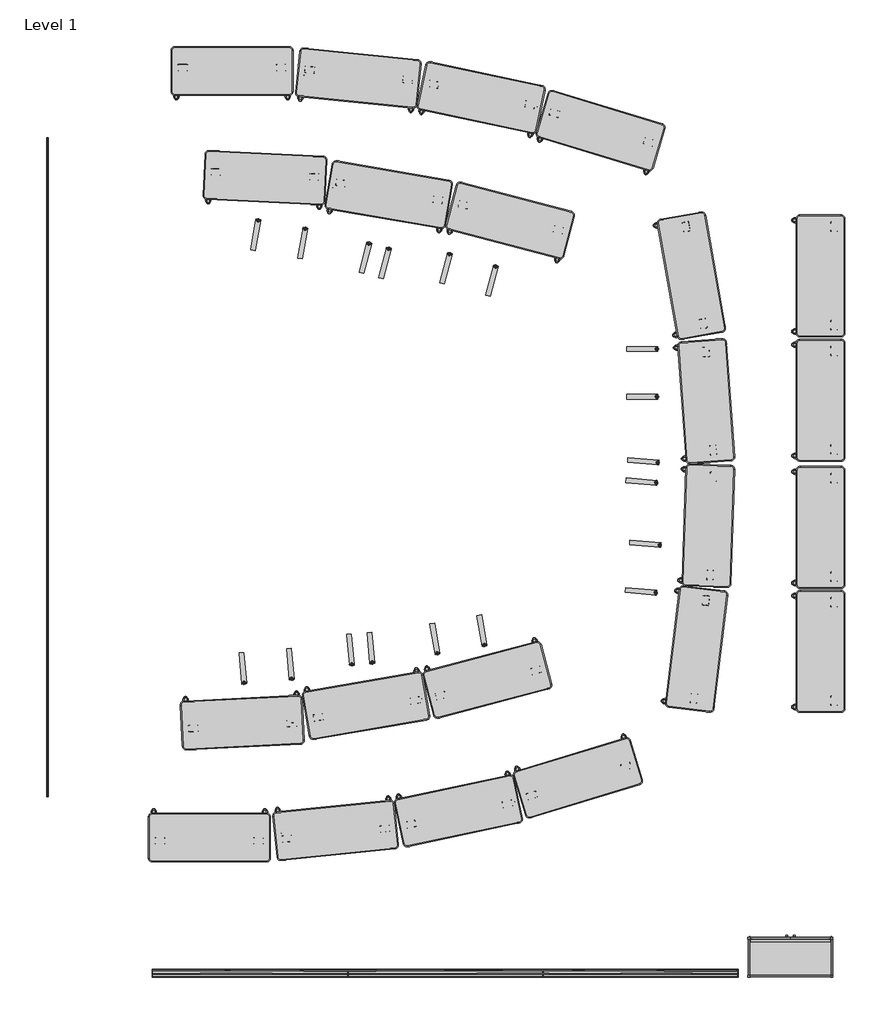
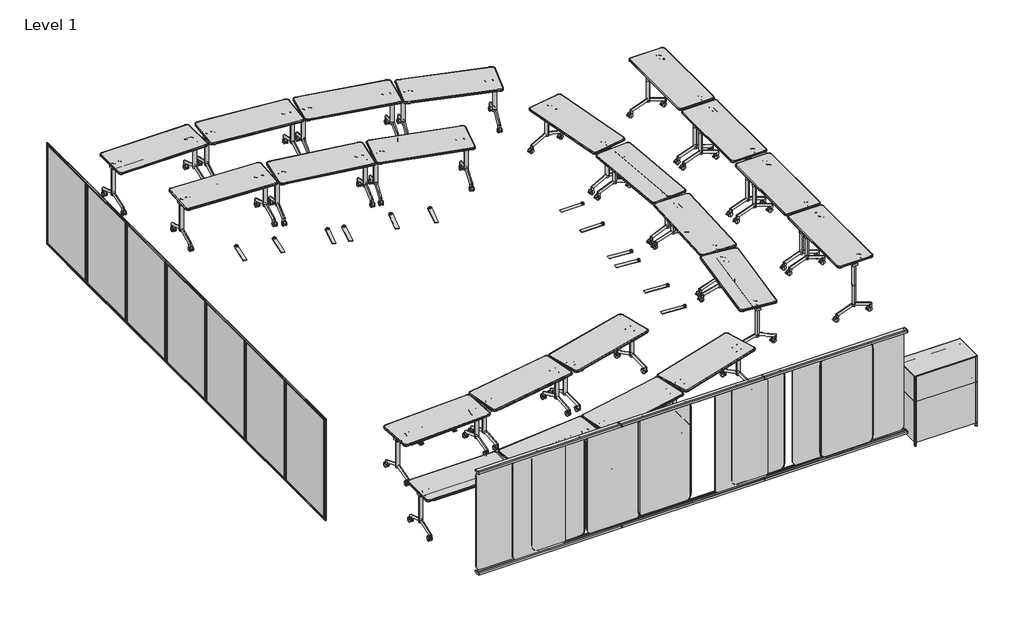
# One storey, incomplete: 52 furniture elements.
"""IFC4 building model written with IfcOpenShell, lengths in millimetres."""

from ifc_helpers import new_model, si_unit, origin, place, context, project, spatial, transform, mapped, element, save
from components import furniture_818722c3, furniture_cddd74b0, furniture_4304682f, furniture_49b3452a, furniture_2a3ed800, furniture_b1fba1ff, double_ea325dfb, polyvision_accessory_board_flow_vertical_5f54c6b5, polyvision_accessory_board_flow_vertical_01536e87, polyvision_accessory_board_flow_vertical_d371d4c1, single_6dff62dc, steelcase_am_accessory_board_flex_markerboard_71h_e8a6860e, steelcase_am_accessory_board_flex_wallrail_71h_4a79e921, steelcase_am_spacedivision_screen_flex_freestanding_69d37450, upper_shelves_lower_shelves_e5fb00db, upper_shelves_lower_shelves_66190618, upper_shelves_lower_shelves_562fbb97

model = new_model("IFC4")

# Units and contexts
model_context = context("Model", 3, world=origin())
ifc_project = project(units=[si_unit("LENGTHUNIT", "METRE", prefix="MILLI")], contexts=[model_context])

# Site, building, storey
site = spatial("IfcSite", under=ifc_project)
building = spatial("IfcBuilding", under=site)
storey = spatial("IfcBuildingStorey", under=building, Name="Level 1", Elevation=0.0)

# Furniture
placement = place(None, origin())
furniture_shape = furniture_818722c3(model_context)
furniture_2_shape = furniture_cddd74b0(model_context)
element("IfcFurniture", 1, ObjectType="SmithSystem_AM_Table_Education_Elemental_NestAndFold_24D : 24D x 60W", at=placement, inside=storey, context=model_context, shape_type="MappedRepresentation", body=[
    mapped(furniture_shape, transform((-70007.1827274, -115179.6310639, 0.0), x_axis=(0.9987639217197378, 0.049705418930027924, 0.0), y_axis=(-0.049705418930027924, 0.9987639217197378, 0.0), z_axis=(0.0, 0.0, 1.0))),
    mapped(furniture_2_shape, transform((-70007.1827274, -115179.6310639, 0.0), x_axis=(0.9987639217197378, 0.049705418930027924, 0.0), y_axis=(-0.049705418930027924, 0.9987639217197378, 0.0), z_axis=(0.0, 0.0, 1.0))),
])
element("IfcFurniture", 2, ObjectType="SmithSystem_AM_Table_Education_Elemental_NestAndFold_24D : 24D x 60W", at=placement, inside=storey, context=model_context, shape_type="MappedRepresentation", body=[
    mapped(furniture_shape, transform((-68487.0894304, -115063.2321381, 0.0), x_axis=(0.9855113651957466, 0.16960940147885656, 0.0), y_axis=(-0.16960940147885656, 0.9855113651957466, 0.0), z_axis=(0.0, 0.0, 1.0))),
    mapped(furniture_2_shape, transform((-68487.0894304, -115063.2321381, 0.0), x_axis=(0.9855113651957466, 0.16960940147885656, 0.0), y_axis=(-0.16960940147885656, 0.9855113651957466, 0.0), z_axis=(0.0, 0.0, 1.0))),
])
element("IfcFurniture", 3, ObjectType="SmithSystem_AM_Table_Education_Elemental_NestAndFold_24D : 24D x 60W", at=placement, inside=storey, context=model_context, shape_type="MappedRepresentation", body=[
    mapped(furniture_shape, transform((-66983.6869748, -114811.5696392, 0.0), x_axis=(0.9669787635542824, 0.25485696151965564, 0.0), y_axis=(-0.25485696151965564, 0.9669787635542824, 0.0), z_axis=(0.0, 0.0, 1.0))),
    mapped(furniture_2_shape, transform((-66983.6869748, -114811.5696392, 0.0), x_axis=(0.9669787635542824, 0.25485696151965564, 0.0), y_axis=(-0.25485696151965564, 0.9669787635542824, 0.0), z_axis=(0.0, 0.0, 1.0))),
])
element("IfcFurniture", 4, ObjectType="SmithSystem_AM_Table_Education_Elemental_NestAndFold_24D : 24D x 60W", at=placement, inside=storey, context=model_context, shape_type="MappedRepresentation", body=[
    mapped(furniture_shape, transform((-70404.7643474, -116577.3564631, 0.0), x_axis=(1.0, 0.0, 0.0), y_axis=(0.0, 1.0, 0.0), z_axis=(0.0, 0.0, 1.0))),
    mapped(furniture_2_shape, transform((-70404.7643474, -116577.3564631, 0.0), x_axis=(1.0, 0.0, 0.0), y_axis=(0.0, 1.0, 0.0), z_axis=(0.0, 0.0, 1.0))),
])
element("IfcFurniture", 5, ObjectType="SmithSystem_AM_Table_Education_Elemental_NestAndFold_24D : 24D x 60W", at=placement, inside=storey, context=model_context, shape_type="MappedRepresentation", body=[
    mapped(furniture_shape, transform((-68854.0558064, -116566.6361646, 0.0), x_axis=(0.9948091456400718, 0.10175835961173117, 0.0), y_axis=(-0.10175835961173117, 0.9948091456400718, 0.0), z_axis=(0.0, 0.0, 1.0))),
    mapped(furniture_2_shape, transform((-68854.0558064, -116566.6361646, 0.0), x_axis=(0.9948091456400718, 0.10175835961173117, 0.0), y_axis=(-0.10175835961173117, 0.9948091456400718, 0.0), z_axis=(0.0, 0.0, 1.0))),
])
element("IfcFurniture", 6, ObjectType="SmithSystem_AM_Table_Education_Elemental_NestAndFold_24D : 24D x 60W", at=placement, inside=storey, context=model_context, shape_type="MappedRepresentation", body=[
    mapped(furniture_shape, transform((-67338.3843084, -116407.4734973, 0.0), x_axis=(0.9785094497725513, 0.20620198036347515, 0.0), y_axis=(-0.20620198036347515, 0.9785094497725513, 0.0), z_axis=(0.0, 0.0, 1.0))),
    mapped(furniture_2_shape, transform((-67338.3843084, -116407.4734973, 0.0), x_axis=(0.9785094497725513, 0.20620198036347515, 0.0), y_axis=(-0.20620198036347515, 0.9785094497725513, 0.0), z_axis=(0.0, 0.0, 1.0))),
])
element("IfcFurniture", 7, ObjectType="SmithSystem_AM_Table_Education_Elemental_NestAndFold_24D : 24D x 60W", at=placement, inside=storey, context=model_context, shape_type="MappedRepresentation", body=[
    mapped(furniture_shape, transform((-65855.4237394, -116065.7459511, 0.0), x_axis=(0.9568142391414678, 0.2907000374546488, 0.0), y_axis=(-0.2907000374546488, 0.9568142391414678, 0.0), z_axis=(0.0, 0.0, 1.0))),
    mapped(furniture_2_shape, transform((-65855.4237394, -116065.7459511, 0.0), x_axis=(0.9568142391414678, 0.2907000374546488, 0.0), y_axis=(-0.2907000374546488, 0.9568142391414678, 0.0), z_axis=(0.0, 0.0, 1.0))),
])
furniture_3_shape = furniture_4304682f(model_context)
furniture_4_shape = furniture_49b3452a(model_context)
element("IfcFurniture", 8, ObjectType="SmithSystem_AM_Table_Education_Elemental_NestAndFold_24D : 24D x 60W", at=placement, inside=storey, context=model_context, shape_type="MappedRepresentation", body=[
    mapped(furniture_3_shape, transform((-69724.0279915, -108905.5000288, 0.0), x_axis=(0.9987639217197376, -0.04970541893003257, 0.0), y_axis=(0.04970541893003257, 0.9987639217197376, 0.0), z_axis=(0.0, 0.0, 1.0))),
    mapped(furniture_4_shape, transform((-69724.0279915, -108905.5000288, 0.0), x_axis=(0.9987639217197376, -0.04970541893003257, 0.0), y_axis=(0.04970541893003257, 0.9987639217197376, 0.0), z_axis=(0.0, 0.0, 1.0))),
])
element("IfcFurniture", 9, ObjectType="SmithSystem_AM_Table_Education_Elemental_NestAndFold_24D : 24D x 60W", at=placement, inside=storey, context=model_context, shape_type="MappedRepresentation", body=[
    mapped(furniture_3_shape, transform((-68203.9346946, -109021.8989546, 0.0), x_axis=(0.9855113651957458, -0.16960940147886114, 0.0), y_axis=(0.16960940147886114, 0.9855113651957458, 0.0), z_axis=(0.0, 0.0, 1.0))),
    mapped(furniture_4_shape, transform((-68203.9346946, -109021.8989546, 0.0), x_axis=(0.9855113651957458, -0.16960940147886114, 0.0), y_axis=(0.16960940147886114, 0.9855113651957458, 0.0), z_axis=(0.0, 0.0, 1.0))),
])
element("IfcFurniture", 10, ObjectType="SmithSystem_AM_Table_Education_Elemental_NestAndFold_24D : 24D x 60W", at=placement, inside=storey, context=model_context, shape_type="MappedRepresentation", body=[
    mapped(furniture_3_shape, transform((-66700.5322389, -109273.5614535, 0.0), x_axis=(0.9669787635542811, -0.25485696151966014, 0.0), y_axis=(0.25485696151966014, 0.9669787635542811, 0.0), z_axis=(0.0, 0.0, 1.0))),
    mapped(furniture_4_shape, transform((-66700.5322389, -109273.5614535, 0.0), x_axis=(0.9669787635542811, -0.25485696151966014, 0.0), y_axis=(0.25485696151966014, 0.9669787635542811, 0.0), z_axis=(0.0, 0.0, 1.0))),
])
element("IfcFurniture", 11, ObjectType="SmithSystem_AM_Table_Education_Elemental_NestAndFold_24D : 24D x 60W", at=placement, inside=storey, context=model_context, shape_type="MappedRepresentation", body=[
    mapped(furniture_3_shape, transform((-70121.6096116, -107609.3746296, 0.0), x_axis=(1.0, 0.0, 0.0), y_axis=(0.0, 1.0, 0.0), z_axis=(0.0, 0.0, 1.0))),
    mapped(furniture_4_shape, transform((-70121.6096116, -107609.3746296, 0.0), x_axis=(1.0, 0.0, 0.0), y_axis=(0.0, 1.0, 0.0), z_axis=(0.0, 0.0, 1.0))),
])
element("IfcFurniture", 12, ObjectType="SmithSystem_AM_Table_Education_Elemental_NestAndFold_24D : 24D x 60W", at=placement, inside=storey, context=model_context, shape_type="MappedRepresentation", body=[
    mapped(furniture_3_shape, transform((-68570.9010706, -107620.0949281, 0.0), x_axis=(0.9948091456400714, -0.10175835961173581, 0.0), y_axis=(0.10175835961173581, 0.9948091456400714, 0.0), z_axis=(0.0, 0.0, 1.0))),
    mapped(furniture_4_shape, transform((-68570.9010706, -107620.0949281, 0.0), x_axis=(0.9948091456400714, -0.10175835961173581, 0.0), y_axis=(0.10175835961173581, 0.9948091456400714, 0.0), z_axis=(0.0, 0.0, 1.0))),
])
element("IfcFurniture", 13, ObjectType="SmithSystem_AM_Table_Education_Elemental_NestAndFold_24D : 24D x 60W", at=placement, inside=storey, context=model_context, shape_type="MappedRepresentation", body=[
    mapped(furniture_3_shape, transform((-67055.2295725, -107779.2575954, 0.0), x_axis=(0.9785094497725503, -0.2062019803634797, 0.0), y_axis=(0.2062019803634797, 0.9785094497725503, 0.0), z_axis=(0.0, 0.0, 1.0))),
    mapped(furniture_4_shape, transform((-67055.2295725, -107779.2575954, 0.0), x_axis=(0.9785094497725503, -0.2062019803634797, 0.0), y_axis=(0.2062019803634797, 0.9785094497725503, 0.0), z_axis=(0.0, 0.0, 1.0))),
])
element("IfcFurniture", 14, ObjectType="SmithSystem_AM_Table_Education_Elemental_NestAndFold_24D : 24D x 60W", at=placement, inside=storey, context=model_context, shape_type="MappedRepresentation", body=[
    mapped(furniture_3_shape, transform((-65572.2690036, -108120.9851416, 0.0), x_axis=(0.9568142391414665, -0.2907000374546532, 0.0), y_axis=(0.2907000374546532, 0.9568142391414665, 0.0), z_axis=(0.0, 0.0, 1.0))),
    mapped(furniture_4_shape, transform((-65572.2690036, -108120.9851416, 0.0), x_axis=(0.9568142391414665, -0.2907000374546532, 0.0), y_axis=(0.2907000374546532, 0.9568142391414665, 0.0), z_axis=(0.0, 0.0, 1.0))),
])
element("IfcFurniture", 15, ObjectType="SmithSystem_AM_Table_Education_Elemental_NestAndFold_24D : 24D x 60W", at=placement, inside=storey, context=model_context, shape_type="MappedRepresentation", body=[
    mapped(furniture_3_shape, transform((-64052.4400231, -109165.0108181, 0.0), x_axis=(0.17364817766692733, -0.9848077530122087, 0.0), y_axis=(0.9848077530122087, 0.17364817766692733, 0.0), z_axis=(0.0, 0.0, 1.0))),
    mapped(furniture_4_shape, transform((-64052.4400231, -109165.0108181, 0.0), x_axis=(0.17364817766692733, -0.9848077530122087, 0.0), y_axis=(0.9848077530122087, 0.17364817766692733, 0.0), z_axis=(0.0, 0.0, 1.0))),
])
element("IfcFurniture", 16, ObjectType="SmithSystem_AM_Table_Education_Elemental_NestAndFold_24D : 24D x 60W", at=placement, inside=storey, context=model_context, shape_type="MappedRepresentation", body=[
    mapped(furniture_3_shape, transform((-63793.7197439, -110694.0221722, 0.0), x_axis=(0.07253437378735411, -0.997365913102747, 0.0), y_axis=(0.997365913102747, 0.07253437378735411, 0.0), z_axis=(0.0, 0.0, 1.0))),
    mapped(furniture_4_shape, transform((-63793.7197439, -110694.0221722, 0.0), x_axis=(0.07253437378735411, -0.997365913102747, 0.0), y_axis=(0.997365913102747, 0.07253437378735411, 0.0), z_axis=(0.0, 0.0, 1.0))),
])
element("IfcFurniture", 17, ObjectType="SmithSystem_AM_Table_Education_Elemental_NestAndFold_24D : 24D x 60W", at=placement, inside=storey, context=model_context, shape_type="MappedRepresentation", body=[
    mapped(furniture_3_shape, transform((-63687.2707792, -112214.3055216, 0.0), x_axis=(-0.03315292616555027, -0.9994502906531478, 0.0), y_axis=(0.9994502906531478, -0.03315292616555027, 0.0), z_axis=(0.0, 0.0, 1.0))),
    mapped(furniture_4_shape, transform((-63687.2707792, -112214.3055216, 0.0), x_axis=(-0.03315292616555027, -0.9994502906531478, 0.0), y_axis=(0.9994502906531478, -0.03315292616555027, 0.0), z_axis=(0.0, 0.0, 1.0))),
])
element("IfcFurniture", 18, ObjectType="SmithSystem_AM_Table_Education_Elemental_NestAndFold_24D : 24D x 60W", at=placement, inside=storey, context=model_context, shape_type="MappedRepresentation", body=[
    mapped(furniture_3_shape, transform((-63766.2933157, -113734.076953, 0.0), x_axis=(-0.12013460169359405, -0.9927576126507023, 0.0), y_axis=(0.9927576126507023, -0.12013460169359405, 0.0), z_axis=(0.0, 0.0, 1.0))),
    mapped(furniture_4_shape, transform((-63766.2933157, -113734.076953, 0.0), x_axis=(-0.12013460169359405, -0.9927576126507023, 0.0), y_axis=(0.9927576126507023, -0.12013460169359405, 0.0), z_axis=(0.0, 0.0, 1.0))),
])
furniture_5_shape = furniture_2a3ed800(model_context)
furniture_6_shape = furniture_b1fba1ff(model_context)
element("IfcFurniture", 19, ObjectType="SmithSystem_AM_Table_Education_Elemental_NestAndFold_24D : 24D x 60W", at=placement, inside=storey, context=model_context, shape_type="MappedRepresentation", body=[
    mapped(furniture_5_shape, transform((-62311.6009507, -110627.3244048, 0.0), x_axis=(0.0, 1.0, 0.0), y_axis=(-1.0, 0.0, 0.0), z_axis=(0.0, 0.0, 1.0))),
    mapped(furniture_6_shape, transform((-62311.6009507, -110627.3244048, 0.0), x_axis=(0.0, 1.0, 0.0), y_axis=(-1.0, 0.0, 0.0), z_axis=(0.0, 0.0, 1.0))),
])
element("IfcFurniture", 20, ObjectType="SmithSystem_AM_Table_Education_Elemental_NestAndFold_24D : 24D x 60W", at=placement, inside=storey, context=model_context, shape_type="MappedRepresentation", body=[
    mapped(furniture_5_shape, transform((-62311.5124122, -112181.2332375, 0.0), x_axis=(0.0, 1.0, 0.0), y_axis=(-1.0, 0.0, 0.0), z_axis=(0.0, 0.0, 1.0))),
    mapped(furniture_6_shape, transform((-62311.5124122, -112181.2332375, 0.0), x_axis=(0.0, 1.0, 0.0), y_axis=(-1.0, 0.0, 0.0), z_axis=(0.0, 0.0, 1.0))),
])
element("IfcFurniture", 21, ObjectType="SmithSystem_AM_Table_Education_Elemental_NestAndFold_24D : 24D x 60W", at=placement, inside=storey, context=model_context, shape_type="MappedRepresentation", body=[
    mapped(furniture_5_shape, transform((-62311.4219379, -113769.1167848, 0.0), x_axis=(0.0, 1.0, 0.0), y_axis=(-1.0, 0.0, 0.0), z_axis=(0.0, 0.0, 1.0))),
    mapped(furniture_6_shape, transform((-62311.4219379, -113769.1167848, 0.0), x_axis=(0.0, 1.0, 0.0), y_axis=(-1.0, 0.0, 0.0), z_axis=(0.0, 0.0, 1.0))),
])
element("IfcFurniture", 22, ObjectType="SmithSystem_AM_Table_Education_Elemental_NestAndFold_24D : 24D x 60W", at=placement, inside=storey, context=model_context, shape_type="MappedRepresentation", body=[
    mapped(furniture_5_shape, transform((-62311.3336592, -115318.4647329, 0.0), x_axis=(0.0, 1.0, 0.0), y_axis=(-1.0, 0.0, 0.0), z_axis=(0.0, 0.0, 1.0))),
    mapped(furniture_6_shape, transform((-62311.3336592, -115318.4647329, 0.0), x_axis=(0.0, 1.0, 0.0), y_axis=(-1.0, 0.0, 0.0), z_axis=(0.0, 0.0, 1.0))),
])
double_shape = double_ea325dfb(model_context)
element("IfcFurniture", 23, ObjectType="SmithSystem_AM_Seating_Education_Flowform_LearnLounge_MobileKit_Double : Double", at=placement, inside=storey, context=model_context, shape_type="MappedRepresentation", body=[
    mapped(double_shape, transform((-68781.4367416, -109463.0364267, 0.0), x_axis=(0.9848077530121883, -0.1736481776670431, 0.0), y_axis=(0.1736481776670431, 0.9848077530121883, 0.0), z_axis=(0.0, 0.0, 1.0))),
])
element("IfcFurniture", 24, ObjectType="SmithSystem_AM_Seating_Education_Flowform_LearnLounge_MobileKit_Double : Double", at=placement, inside=storey, context=model_context, shape_type="MappedRepresentation", body=[
    mapped(double_shape, transform((-66415.4279876, -109905.8722898, 0.0), x_axis=(0.9659258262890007, -0.2588190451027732, 0.0), y_axis=(0.2588190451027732, 0.9659258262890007, 0.0), z_axis=(0.0, 0.0, 1.0))),
])
element("IfcFurniture", 25, ObjectType="SmithSystem_AM_Seating_Education_Flowform_LearnLounge_MobileKit_Double : Double", at=placement, inside=storey, context=model_context, shape_type="MappedRepresentation", body=[
    mapped(double_shape, transform((-66541.7634175, -114288.4434881, 0.0), x_axis=(-0.9848077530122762, -0.17364817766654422, 0.0), y_axis=(0.17364817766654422, -0.9848077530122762, 0.0), z_axis=(0.0, 0.0, 1.0))),
])
element("IfcFurniture", 26, ObjectType="SmithSystem_AM_Seating_Education_Flowform_LearnLounge_MobileKit_Double : Double", at=placement, inside=storey, context=model_context, shape_type="MappedRepresentation", body=[
    mapped(double_shape, transform((-68932.8891944, -114681.5433593, 0.0), x_axis=(-0.9961946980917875, -0.08715574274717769, 0.0), y_axis=(0.08715574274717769, -0.9961946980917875, 0.0), z_axis=(0.0, 0.0, 1.0))),
])
element("IfcFurniture", 27, ObjectType="SmithSystem_AM_Seating_Education_Flowform_LearnLounge_MobileKit_Double : Double", at=placement, inside=storey, context=model_context, shape_type="MappedRepresentation", body=[
    mapped(double_shape, transform((-64282.8907135, -113503.6471622, 0.0), x_axis=(-0.08715574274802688, -0.9961946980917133, 0.0), y_axis=(0.9961946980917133, -0.08715574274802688, 0.0), z_axis=(0.0, 0.0, 1.0))),
])
element("IfcFurniture", 28, ObjectType="SmithSystem_AM_Seating_Education_Flowform_LearnLounge_MobileKit_Double : Double", at=placement, inside=storey, context=model_context, shape_type="MappedRepresentation", body=[
    mapped(double_shape, transform((-64294.6285299, -111075.7676824, 0.0), x_axis=(0.0, -1.0, 0.0), y_axis=(1.0, 0.0, 0.0), z_axis=(0.0, 0.0, 1.0))),
])
polyvision_accessory_board_flow_vertical_shape = polyvision_accessory_board_flow_vertical_5f54c6b5(model_context)
element("IfcFurniture", 29, ObjectType="PolyVision_Accessory_Board_Flow_Vertical : 47W x 72H (1185 W x 1830 H)", at=placement, inside=storey, context=model_context, shape_type="MappedRepresentation", body=[
    mapped(polyvision_accessory_board_flow_vertical_shape, transform((-71664.9952537, -115779.5503763, 355.6), x_axis=(0.0, 1.0, 0.0), y_axis=(-1.0, 0.0, 0.0), z_axis=(0.0, 0.0, 1.0))),
])
polyvision_accessory_board_flow_vertical_2_shape = polyvision_accessory_board_flow_vertical_01536e87(model_context)
element("IfcFurniture", 30, ObjectType="PolyVision_Accessory_Board_Flow_Vertical : 47W x 72H (1185 W x 1830 H)", at=placement, inside=storey, context=model_context, shape_type="MappedRepresentation", body=[
    mapped(polyvision_accessory_board_flow_vertical_2_shape, transform((-71664.9952537, -114605.4159834, 355.6), x_axis=(0.0, 1.0, 0.0), y_axis=(-1.0, 0.0, 0.0), z_axis=(0.0, 0.0, 1.0))),
])
element("IfcFurniture", 31, ObjectType="PolyVision_Accessory_Board_Flow_Vertical : 47W x 72H (1185 W x 1830 H)", at=placement, inside=storey, context=model_context, shape_type="MappedRepresentation", body=[
    mapped(polyvision_accessory_board_flow_vertical_2_shape, transform((-71664.9952537, -113431.2815905, 355.6), x_axis=(0.0, 1.0, 0.0), y_axis=(-1.0, 0.0, 0.0), z_axis=(0.0, 0.0, 1.0))),
])
element("IfcFurniture", 32, ObjectType="PolyVision_Accessory_Board_Flow_Vertical : 47W x 72H (1185 W x 1830 H)", at=placement, inside=storey, context=model_context, shape_type="MappedRepresentation", body=[
    mapped(polyvision_accessory_board_flow_vertical_2_shape, transform((-71664.9952537, -112257.1471976, 355.6), x_axis=(0.0, 1.0, 0.0), y_axis=(-1.0, 0.0, 0.0), z_axis=(0.0, 0.0, 1.0))),
])
element("IfcFurniture", 33, ObjectType="PolyVision_Accessory_Board_Flow_Vertical : 47W x 72H (1185 W x 1830 H)", at=placement, inside=storey, context=model_context, shape_type="MappedRepresentation", body=[
    mapped(polyvision_accessory_board_flow_vertical_2_shape, transform((-71664.9952537, -111083.0128048, 355.6), x_axis=(0.0, 1.0, 0.0), y_axis=(-1.0, 0.0, 0.0), z_axis=(0.0, 0.0, 1.0))),
])
element("IfcFurniture", 34, ObjectType="PolyVision_Accessory_Board_Flow_Vertical : 47W x 72H (1185 W x 1830 H)", at=placement, inside=storey, context=model_context, shape_type="MappedRepresentation", body=[
    mapped(polyvision_accessory_board_flow_vertical_2_shape, transform((-71664.9952537, -109908.8784119, 355.6), x_axis=(0.0, 1.0, 0.0), y_axis=(-1.0, 0.0, 0.0), z_axis=(0.0, 0.0, 1.0))),
])
polyvision_accessory_board_flow_vertical_3_shape = polyvision_accessory_board_flow_vertical_d371d4c1(model_context)
element("IfcFurniture", 35, ObjectType="PolyVision_Accessory_Board_Flow_Vertical : 47W x 72H (1185 W x 1830 H)", at=placement, inside=storey, context=model_context, shape_type="MappedRepresentation", body=[
    mapped(polyvision_accessory_board_flow_vertical_3_shape, transform((-71664.9952537, -108734.744019, 355.6), x_axis=(0.0, 1.0, 0.0), y_axis=(-1.0, 0.0, 0.0), z_axis=(0.0, 0.0, 1.0))),
])
single_shape = single_6dff62dc(model_context)
element("IfcFurniture", 36, ObjectType="SmithSystem_AM_Seating_Education_Flowform_LearnLounge_MobileKit_Single : Single", at=placement, inside=storey, context=model_context, shape_type="MappedRepresentation", body=[
    mapped(single_shape, transform((-67576.5057621, -109691.0584773, 0.0), x_axis=(0.9669580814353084, -0.25493542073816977, 0.0), y_axis=(0.25493542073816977, 0.9669580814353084, 0.0), z_axis=(0.0, 0.0, 1.0))),
])
element("IfcFurniture", 37, ObjectType="SmithSystem_AM_Seating_Education_Flowform_LearnLounge_MobileKit_Single : Single", at=placement, inside=storey, context=model_context, shape_type="MappedRepresentation", body=[
    mapped(single_shape, transform((-64252.7628944, -112306.8772483, 0.0), x_axis=(-0.08315187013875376, -0.9965368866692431, 0.0), y_axis=(0.9965368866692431, -0.08315187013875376, 0.0), z_axis=(0.0, 0.0, 1.0))),
])
element("IfcFurniture", 38, ObjectType="SmithSystem_AM_Seating_Education_Flowform_LearnLounge_MobileKit_Single : Single", at=placement, inside=storey, context=model_context, shape_type="MappedRepresentation", body=[
    mapped(single_shape, transform((-67754.2959877, -114503.8781352, 0.0), x_axis=(-0.995836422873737, -0.09115820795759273, 0.0), y_axis=(0.09115820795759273, -0.995836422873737, 0.0), z_axis=(0.0, 0.0, 1.0))),
])
steelcase_am_accessory_board_flex_markerboard_71h_shape = steelcase_am_accessory_board_flex_markerboard_71h_e8a6860e(model_context)
element("IfcFurniture", 39, ObjectType="Steelcase_AM_Accessory_Board_Flex_Markerboard : 71H", at=placement, inside=storey, context=model_context, shape_type="MappedRepresentation", body=[
    mapped(steelcase_am_accessory_board_flex_markerboard_71h_shape, transform((-70353.5225854, -118535.3148743, 302.4062228), x_axis=(1.0, 0.0, 0.0), y_axis=(0.0, 1.0, 0.0), z_axis=(0.0, 0.0, 1.0))),
])
element("IfcFurniture", 40, ObjectType="Steelcase_AM_Accessory_Board_Flex_Markerboard : 71H", at=placement, inside=storey, context=model_context, shape_type="MappedRepresentation", body=[
    mapped(steelcase_am_accessory_board_flex_markerboard_71h_shape, transform((-69757.864962, -118579.8271563, 302.4062228), x_axis=(1.0, 0.0, 0.0), y_axis=(0.0, 1.0, 0.0), z_axis=(0.0, 0.0, 1.0))),
])
element("IfcFurniture", 41, ObjectType="Steelcase_AM_Accessory_Board_Flex_Markerboard : 71H", at=placement, inside=storey, context=model_context, shape_type="MappedRepresentation", body=[
    mapped(steelcase_am_accessory_board_flex_markerboard_71h_shape, transform((-68463.7288542, -118537.2370141, 302.6311752), x_axis=(1.0, 0.0, 0.0), y_axis=(0.0, 1.0, 0.0), z_axis=(0.0, 0.0, 1.0))),
])
element("IfcFurniture", 42, ObjectType="Steelcase_AM_Accessory_Board_Flex_Markerboard : 71H", at=placement, inside=storey, context=model_context, shape_type="MappedRepresentation", body=[
    mapped(steelcase_am_accessory_board_flex_markerboard_71h_shape, transform((-64953.168857, -118535.3148743, 302.4062228), x_axis=(1.0, 0.0, 0.0), y_axis=(0.0, 1.0, 0.0), z_axis=(0.0, 0.0, 1.0))),
])
element("IfcFurniture", 43, ObjectType="Steelcase_AM_Accessory_Board_Flex_Markerboard : 71H", at=placement, inside=storey, context=model_context, shape_type="MappedRepresentation", body=[
    mapped(steelcase_am_accessory_board_flex_markerboard_71h_shape, transform((-66305.224197, -118579.4520256, 302.4062228), x_axis=(1.0, 0.0, 0.0), y_axis=(0.0, 1.0, 0.0), z_axis=(0.0, 0.0, 1.0))),
])
element("IfcFurniture", 44, ObjectType="Steelcase_AM_Accessory_Board_Flex_Markerboard : 71H", at=placement, inside=storey, context=model_context, shape_type="MappedRepresentation", body=[
    mapped(steelcase_am_accessory_board_flex_markerboard_71h_shape, transform((-63961.1325139, -118537.2370141, 302.4062228), x_axis=(1.0, 0.0, 0.0), y_axis=(0.0, 1.0, 0.0), z_axis=(0.0, 0.0, 1.0))),
])
steelcase_am_accessory_board_flex_wallrail_71h_shape = steelcase_am_accessory_board_flex_wallrail_71h_4a79e921(model_context)
element("IfcFurniture", 45, ObjectType="Steelcase_AM_Accessory_Board_Flex_WallRail : 71H", at=placement, inside=storey, context=model_context, shape_type="MappedRepresentation", body=[
    mapped(steelcase_am_accessory_board_flex_wallrail_71h_shape, transform((-63033.327006, -118625.5900077, 0.0), x_axis=(-1.0, 0.0, 0.0), y_axis=(0.0, -1.0, 0.0), z_axis=(0.0, 0.0, 1.0))),
])
element("IfcFurniture", 46, ObjectType="Steelcase_AM_Accessory_Board_Flex_WallRail : 71H", at=placement, inside=storey, context=model_context, shape_type="MappedRepresentation", body=[
    mapped(steelcase_am_accessory_board_flex_wallrail_71h_shape, transform((-65471.7270204, -118625.5900077, 0.0), x_axis=(-1.0, 0.0, 0.0), y_axis=(0.0, -1.0, 0.0), z_axis=(0.0, 0.0, 1.0))),
])
element("IfcFurniture", 47, ObjectType="Steelcase_AM_Accessory_Board_Flex_WallRail : 71H", at=placement, inside=storey, context=model_context, shape_type="MappedRepresentation", body=[
    mapped(steelcase_am_accessory_board_flex_wallrail_71h_shape, transform((-67910.1270348, -118625.5900077, 0.0), x_axis=(-1.0, 0.0, 0.0), y_axis=(0.0, -1.0, 0.0), z_axis=(0.0, 0.0, 1.0))),
])
steelcase_am_spacedivision_screen_flex_freestanding_shape = steelcase_am_spacedivision_screen_flex_freestanding_69d37450(model_context)
element("IfcFurniture", 48, ObjectType="Steelcase_AM_SpaceDivision_Screen_Flex_Freestanding : 71H x 36W", at=placement, inside=storey, context=model_context, shape_type="MappedRepresentation", body=[
    mapped(steelcase_am_spacedivision_screen_flex_freestanding_shape, transform((-67599.1919587, -118541.8262372, 302.4062228), x_axis=(1.0, 0.0, 0.0), y_axis=(0.0, 1.0, 0.0), z_axis=(0.0, 0.0, 1.0))),
])
element("IfcFurniture", 49, ObjectType="Steelcase_AM_SpaceDivision_Screen_Flex_Freestanding : 71H x 36W", at=placement, inside=storey, context=model_context, shape_type="MappedRepresentation", body=[
    mapped(steelcase_am_spacedivision_screen_flex_freestanding_shape, transform((-69404.7737634, -118542.0208608, 302.4062228), x_axis=(1.0, 0.0, 0.0), y_axis=(0.0, 1.0, 0.0), z_axis=(0.0, 0.0, 1.0))),
])
element("IfcFurniture", 50, ObjectType="Steelcase_AM_SpaceDivision_Screen_Flex_Freestanding : 71H x 36W", at=placement, inside=storey, context=model_context, shape_type="MappedRepresentation", body=[
    mapped(steelcase_am_spacedivision_screen_flex_freestanding_shape, transform((-65998.8268123, -118541.8262372, 302.4062228), x_axis=(1.0, 0.0, 0.0), y_axis=(0.0, 1.0, 0.0), z_axis=(0.0, 0.0, 1.0))),
])
element("IfcFurniture", 51, ObjectType="Steelcase_AM_SpaceDivision_Screen_Flex_Freestanding : 71H x 36W", at=placement, inside=storey, context=model_context, shape_type="MappedRepresentation", body=[
    mapped(steelcase_am_spacedivision_screen_flex_freestanding_shape, transform((-64514.6614635, -118585.513507, 302.4062228), x_axis=(1.0, 0.0, 0.0), y_axis=(0.0, 1.0, 0.0), z_axis=(0.0, 0.0, 1.0))),
])
upper_shelves_lower_shelves_shape = upper_shelves_lower_shelves_e5fb00db(model_context)
upper_shelves_lower_shelves_2_shape = upper_shelves_lower_shelves_66190618(model_context)
upper_shelves_lower_shelves_3_shape = upper_shelves_lower_shelves_562fbb97(model_context)
element("IfcFurniture", 52, ObjectType="SmithSystem_AM_Storage_Education_Constellate_Stacking_LowMidCluster : Upper Shelves + Lower Shelves", at=placement, inside=storey, context=model_context, shape_type="MappedRepresentation", body=[
    mapped(upper_shelves_lower_shelves_shape, transform((-62382.5052926, -118375.880101, 0.0), x_axis=(-1.0, 0.0, 0.0), y_axis=(0.0, -1.0, 0.0), z_axis=(0.0, 0.0, 1.0))),
    mapped(upper_shelves_lower_shelves_2_shape, transform((-62382.5052926, -118375.880101, 0.0), x_axis=(-1.0, 0.0, 0.0), y_axis=(0.0, -1.0, 0.0), z_axis=(0.0, 0.0, 1.0))),
    mapped(upper_shelves_lower_shelves_3_shape, transform((-62382.5052926, -118375.880101, 0.0), x_axis=(-1.0, 0.0, 0.0), y_axis=(0.0, -1.0, 0.0), z_axis=(0.0, 0.0, 1.0))),
])

save(model, "model.ifc")
